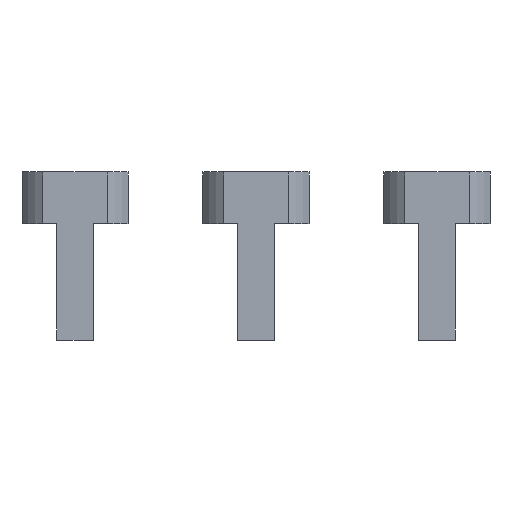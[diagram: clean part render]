
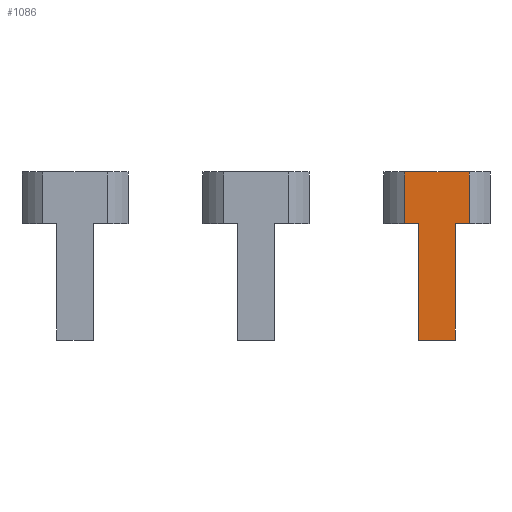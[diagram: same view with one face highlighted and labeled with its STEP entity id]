
A CAD part, front view. The second image highlights one B-rep face of the part: STEP entity #1086.
In plain terms, the highlighted planar face has unit normal (0, -1, 0).
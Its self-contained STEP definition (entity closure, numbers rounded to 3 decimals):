
#5 = VECTOR ( 'NONE', #6271, 1000. ) ;
#48 = EDGE_CURVE ( 'NONE', #100, #3684, #4977, .T. ) ;
#85 = DIRECTION ( 'NONE',  ( -1., 0., 0. ) ) ;
#100 = VERTEX_POINT ( 'NONE', #4457 ) ;
#120 = PLANE ( 'NONE',  #7237 ) ;
#155 = EDGE_CURVE ( 'NONE', #2573, #4975, #2475, .T. ) ;
#245 = CARTESIAN_POINT ( 'NONE',  ( 63.5, -246.95, -103.95 ) ) ;
#289 = DIRECTION ( 'NONE',  ( 0., 0., 1. ) ) ;
#318 = DIRECTION ( 'NONE',  ( -1., 0., 0. ) ) ;
#441 = CARTESIAN_POINT ( 'NONE',  ( 77.5, -246.95, -103.95 ) ) ;
#676 = VECTOR ( 'NONE', #1280, 1000. ) ;
#857 = DIRECTION ( 'NONE',  ( -1., 0., 0. ) ) ;
#861 = CARTESIAN_POINT ( 'NONE',  ( 58.02, -246.95, -103.95 ) ) ;
#872 = DIRECTION ( 'NONE',  ( 0., 0., 1. ) ) ;
#972 = LINE ( 'NONE', #3923, #6506 ) ;
#1062 = VECTOR ( 'NONE', #872, 1000. ) ;
#1086 = ADVANCED_FACE ( 'NONE', ( #2368 ), #120, .F. ) ;
#1103 = CARTESIAN_POINT ( 'NONE',  ( 77.5, -246.95, -148.95 ) ) ;
#1133 = CARTESIAN_POINT ( 'NONE',  ( 63.5, -246.95, -148.95 ) ) ;
#1280 = DIRECTION ( 'NONE',  ( 0., 0., 1. ) ) ;
#1751 = LINE ( 'NONE', #1103, #7847 ) ;
#1810 = ORIENTED_EDGE ( 'NONE', *, *, #2381, .F. ) ;
#1941 = ORIENTED_EDGE ( 'NONE', *, *, #2810, .F. ) ;
#1945 = DIRECTION ( 'NONE',  ( 0., 1., 0. ) ) ;
#2141 = LINE ( 'NONE', #245, #4009 ) ;
#2295 = DIRECTION ( 'NONE',  ( -1., 0., 0. ) ) ;
#2304 = DIRECTION ( 'NONE',  ( 0., 0., -1. ) ) ;
#2368 = FACE_OUTER_BOUND ( 'NONE', #4689, .T. ) ;
#2381 = EDGE_CURVE ( 'NONE', #4975, #4315, #1751, .T. ) ;
#2475 = LINE ( 'NONE', #7526, #4640 ) ;
#2573 = VERTEX_POINT ( 'NONE', #6867 ) ;
#2705 = CARTESIAN_POINT ( 'NONE',  ( 63.5, -246.95, -148.95 ) ) ;
#2748 = EDGE_CURVE ( 'NONE', #6101, #4806, #2141, .T. ) ;
#2781 = CARTESIAN_POINT ( 'NONE',  ( 63.5, -246.95, -103.95 ) ) ;
#2810 = EDGE_CURVE ( 'NONE', #4806, #3684, #972, .T. ) ;
#2816 = ORIENTED_EDGE ( 'NONE', *, *, #3277, .T. ) ;
#3224 = CARTESIAN_POINT ( 'NONE',  ( 82.98, -246.95, -83.95 ) ) ;
#3277 = EDGE_CURVE ( 'NONE', #2573, #100, #4289, .T. ) ;
#3287 = ORIENTED_EDGE ( 'NONE', *, *, #7109, .F. ) ;
#3684 = VERTEX_POINT ( 'NONE', #6201 ) ;
#3733 = ORIENTED_EDGE ( 'NONE', *, *, #48, .T. ) ;
#3923 = CARTESIAN_POINT ( 'NONE',  ( 58.02, -246.95, -148.95 ) ) ;
#4009 = VECTOR ( 'NONE', #318, 1000. ) ;
#4065 = EDGE_CURVE ( 'NONE', #4315, #6501, #7878, .T. ) ;
#4095 = LINE ( 'NONE', #2705, #1062 ) ;
#4289 = LINE ( 'NONE', #6696, #676 ) ;
#4315 = VERTEX_POINT ( 'NONE', #7475 ) ;
#4457 = CARTESIAN_POINT ( 'NONE',  ( 82.98, -246.95, -83.95 ) ) ;
#4640 = VECTOR ( 'NONE', #857, 1000. ) ;
#4689 = EDGE_LOOP ( 'NONE', ( #5584, #2816, #3733, #1941, #6734, #3287, #7822, #1810 ) ) ;
#4806 = VERTEX_POINT ( 'NONE', #861 ) ;
#4815 = CARTESIAN_POINT ( 'NONE',  ( 82.98, -246.95, -148.95 ) ) ;
#4975 = VERTEX_POINT ( 'NONE', #441 ) ;
#4977 = LINE ( 'NONE', #3224, #5 ) ;
#5584 = ORIENTED_EDGE ( 'NONE', *, *, #155, .F. ) ;
#5600 = CARTESIAN_POINT ( 'NONE',  ( 82.98, -246.95, -148.95 ) ) ;
#6101 = VERTEX_POINT ( 'NONE', #2781 ) ;
#6201 = CARTESIAN_POINT ( 'NONE',  ( 58.02, -246.95, -83.95 ) ) ;
#6271 = DIRECTION ( 'NONE',  ( -1., 0., 0. ) ) ;
#6501 = VERTEX_POINT ( 'NONE', #1133 ) ;
#6506 = VECTOR ( 'NONE', #289, 1000. ) ;
#6696 = CARTESIAN_POINT ( 'NONE',  ( 82.98, -246.95, -148.95 ) ) ;
#6734 = ORIENTED_EDGE ( 'NONE', *, *, #2748, .F. ) ;
#6830 = VECTOR ( 'NONE', #2295, 1000. ) ;
#6867 = CARTESIAN_POINT ( 'NONE',  ( 82.98, -246.95, -103.95 ) ) ;
#7109 = EDGE_CURVE ( 'NONE', #6501, #6101, #4095, .T. ) ;
#7237 = AXIS2_PLACEMENT_3D ( 'NONE', #5600, #1945, #85 ) ;
#7475 = CARTESIAN_POINT ( 'NONE',  ( 77.5, -246.95, -148.95 ) ) ;
#7526 = CARTESIAN_POINT ( 'NONE',  ( 77.5, -246.95, -103.95 ) ) ;
#7822 = ORIENTED_EDGE ( 'NONE', *, *, #4065, .F. ) ;
#7847 = VECTOR ( 'NONE', #2304, 1000. ) ;
#7878 = LINE ( 'NONE', #4815, #6830 ) ;
